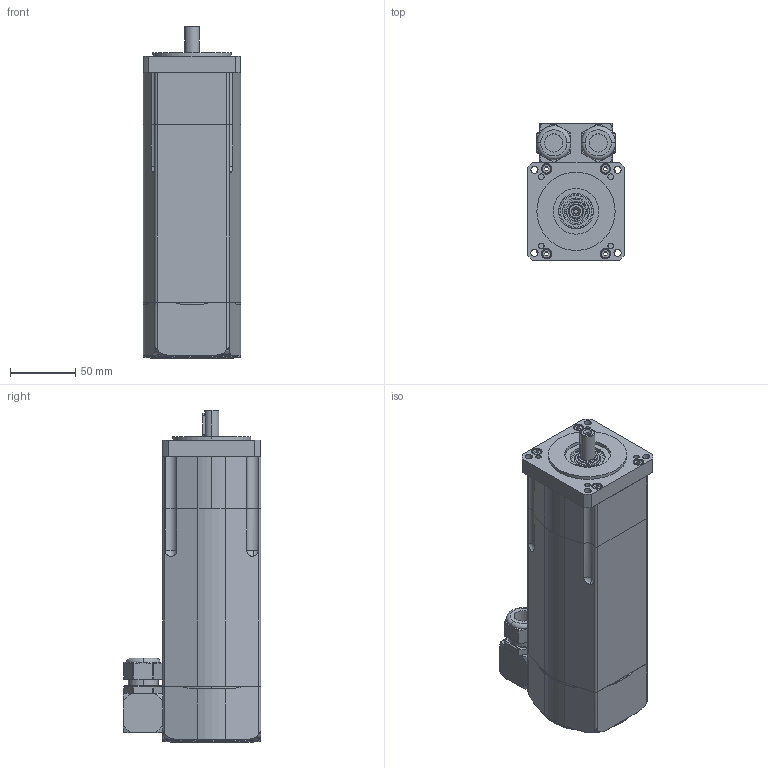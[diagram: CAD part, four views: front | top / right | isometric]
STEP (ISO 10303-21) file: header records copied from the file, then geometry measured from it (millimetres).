
FILE_DESCRIPTION (( 'STEP AP203' ), '1' );
FILE_NAME ('SSAX_75_M_CF .STEP', '2017-06-01T13:14:56', ( 'Tecnico motori' ), ( '' ), 'SwSTEP 2.0', 'SolidWorks 2010', '' );
FILE_SCHEMA (( 'CONFIG_CONTROL_DESIGN' ));
Length unit declared in the file: millimetre
Products named in the file (1): SSAX_75_M_CF 
Bounding box: 75 x 105.3 x 254.2 mm (x, y, z)
Surface area: 97816.6 mm2 (no closed solid volume)
Topology: 0 solids, 21 shells, 419 faces, 1202 edges, 776 vertices
Faces by surface type: cylinder 161, plane 154, cone 32, torus 28, sphere 24, bspline 20
Entity records: 14623 total; most frequent: CARTESIAN_POINT 3686, DIRECTION 2417, ORIENTED_EDGE 2033, EDGE_CURVE 1174, AXIS2_PLACEMENT_3D 935, VERTEX_POINT 772, VECTOR 547, LINE 547
